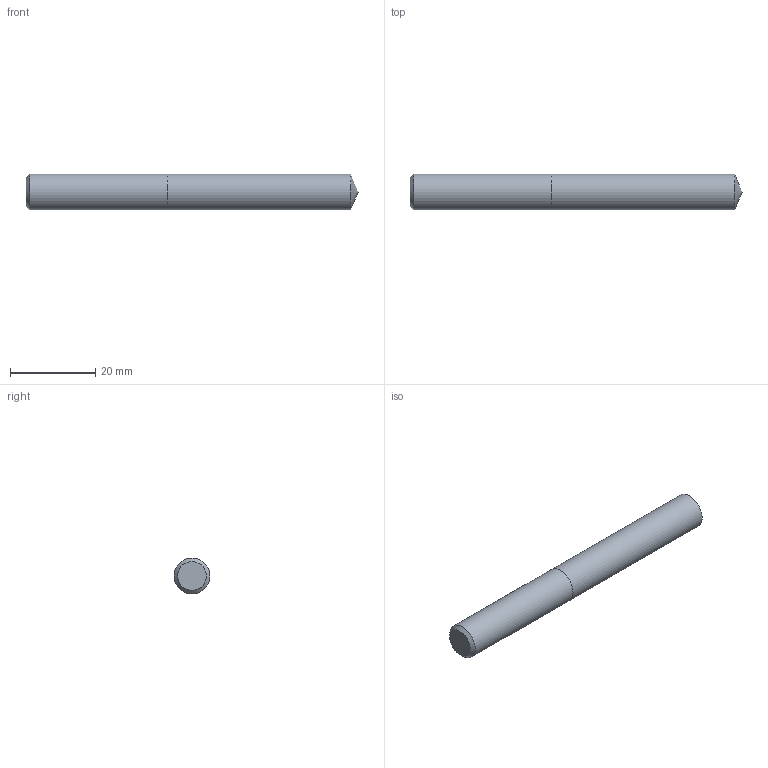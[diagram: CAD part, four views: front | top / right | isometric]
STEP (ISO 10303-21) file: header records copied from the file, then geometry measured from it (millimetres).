
FILE_DESCRIPTION (( 'STEP AP214' ), '1' );
FILE_NAME ('03-2333.STEP', '2022-06-03T06:20:56', ( 'USER' ), ( '' ), 'SwSTEP 2.0', 'SolidWorks 2018', '' );
FILE_SCHEMA (( 'AUTOMOTIVE_DESIGN' ));
Length unit declared in the file: inch
Products named in the file (1): 03-2333
Bounding box: 77.95 x 8.43 x 8.43 mm (x, y, z)
Volume: 4279.6 mm3; surface area: 2232.7 mm2
Topology: 2 solids, 2 shells, 7 faces, 11 edges, 7 vertices
Faces by surface type: plane 3, cylinder 2, cone 2
Full cylindrical faces by diameter (mm): 8.433 x2
Entity records: 214 total; most frequent: DIRECTION 26, CARTESIAN_POINT 18, AXIS2_PLACEMENT_3D 13, EDGE_LOOP 10, ORIENTED_EDGE 10, FACE_OUTER_BOUND 9, DIMENSIONAL_EXPONENTS 7, ADVANCED_FACE 7
